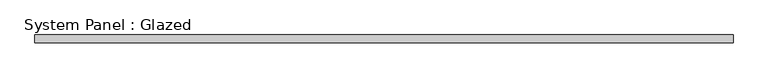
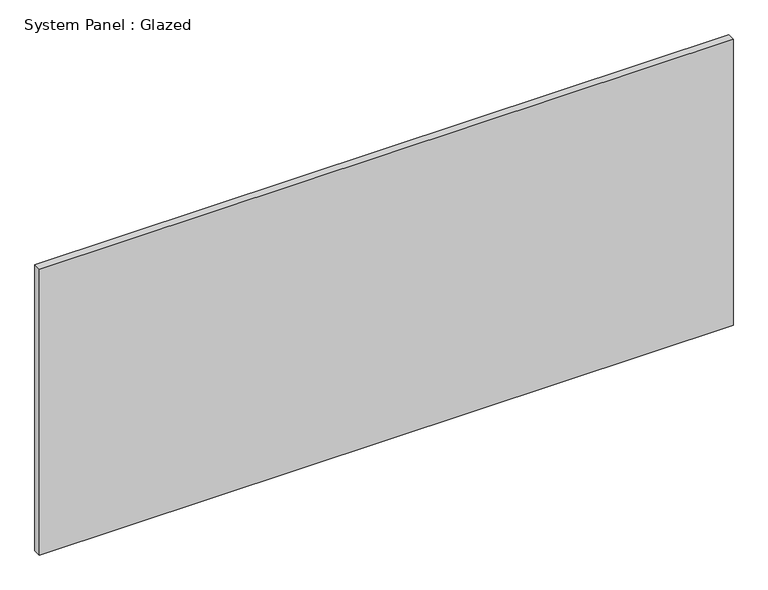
"""IFC4 building model written with IfcOpenShell, lengths in millimetres: plate geometry, System Panel : Glazed."""

from ifc_helpers import new_model, si_unit, origin, origin_with_axes, place, context, project, spatial, polyline, outline, extrude, source, transform, mapped, element, save


def system_panel_glazed_5afc4ae2(model_context):
    return source(origin(), model_context, "Body", "SweptSolid", [
        extrude(outline(polyline([(1150.955364, 19.05), (-1150.955364, 19.05), (-1150.955364, 44.45), (1150.955364, 44.45), (1150.955364, 19.05)])), origin_with_axes(), (0.0, 0.0, 1.0), 1003.3),
    ])


if __name__ == "__main__":
    model = new_model("IFC4")
    model_context = context("Model", 3, world=origin())
    ifc_project = project(units=[si_unit("LENGTHUNIT", "METRE", prefix="MILLI")], contexts=[model_context])
    site = spatial("IfcSite", under=ifc_project)
    building = spatial("IfcBuilding", under=site)
    placement = place(None, origin())
    system_panel_glazed_shape = system_panel_glazed_5afc4ae2(model_context)
    element("IfcPlate", 1, ObjectType="System Panel : Glazed", at=placement, inside=building, context=model_context, shape_type="MappedRepresentation", body=[
        mapped(system_panel_glazed_shape, transform((0.0, 0.0, 0.0), x_axis=(1.0, 0.0, 0.0), y_axis=(0.0, 1.0, 0.0), z_axis=(0.0, 0.0, 1.0))),
    ])
    save(model, "model.ifc")
